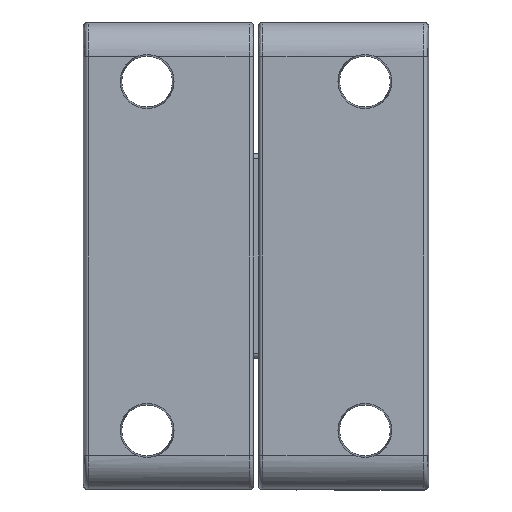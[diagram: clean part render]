
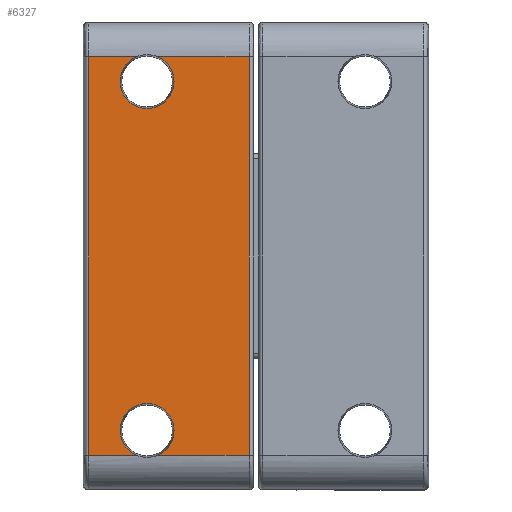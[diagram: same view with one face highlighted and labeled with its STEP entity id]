
A CAD part, left-side view. The second image highlights one B-rep face of the part: STEP entity #6327.
In plain terms, the highlighted planar face has unit normal (-1, 0, 0).
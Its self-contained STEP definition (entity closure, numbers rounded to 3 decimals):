
#20 = CARTESIAN_POINT ( 'NONE',  ( -95.431, 21.302, -106.67 ) ) ;
#51 = DIRECTION ( 'NONE',  ( 1., 0., 0. ) ) ;
#307 = CARTESIAN_POINT ( 'NONE',  ( -95.431, 10.021, -55.746 ) ) ;
#437 = DIRECTION ( 'NONE',  ( 0., 1., 0. ) ) ;
#480 = VERTEX_POINT ( 'NONE', #6023 ) ;
#532 = ORIENTED_EDGE ( 'NONE', *, *, #6943, .T. ) ;
#610 = EDGE_CURVE ( 'NONE', #2013, #2506, #3266, .T. ) ;
#831 = DIRECTION ( 'NONE',  ( -1., 0., 0. ) ) ;
#926 = VERTEX_POINT ( 'NONE', #2002 ) ;
#968 = DIRECTION ( 'NONE',  ( 0., -1., 0. ) ) ;
#1058 = DIRECTION ( 'NONE',  ( 0., 1., 0. ) ) ;
#1101 = VECTOR ( 'NONE', #4502, 1000. ) ;
#1115 = DIRECTION ( 'NONE',  ( 0., -1., 0. ) ) ;
#1288 = VERTEX_POINT ( 'NONE', #5794 ) ;
#1295 = EDGE_CURVE ( 'NONE', #926, #2013, #2900, .T. ) ;
#1339 = ORIENTED_EDGE ( 'NONE', *, *, #4547, .T. ) ;
#1377 = DIRECTION ( 'NONE',  ( 0., -1., 0. ) ) ;
#1397 = VECTOR ( 'NONE', #437, 1000. ) ;
#1593 = ORIENTED_EDGE ( 'NONE', *, *, #6188, .T. ) ;
#1723 = VECTOR ( 'NONE', #6859, 1000. ) ;
#1749 = CARTESIAN_POINT ( 'NONE',  ( -95.431, 25.689, -103.746 ) ) ;
#1836 = DIRECTION ( 'NONE',  ( 1., 0., 0. ) ) ;
#1904 = AXIS2_PLACEMENT_3D ( 'NONE', #5586, #1836, #1115 ) ;
#1950 = CARTESIAN_POINT ( 'NONE',  ( -95.431, 29.384, -59.821 ) ) ;
#2002 = CARTESIAN_POINT ( 'NONE',  ( -95.431, 10.521, -106.67 ) ) ;
#2013 = VERTEX_POINT ( 'NONE', #4315 ) ;
#2091 = DIRECTION ( 'NONE',  ( 0., -1., 0. ) ) ;
#2493 = VECTOR ( 'NONE', #6466, 1000. ) ;
#2506 = VERTEX_POINT ( 'NONE', #6152 ) ;
#2900 = LINE ( 'NONE', #4342, #2493 ) ;
#2980 = ORIENTED_EDGE ( 'NONE', *, *, #4927, .T. ) ;
#3087 = PLANE ( 'NONE',  #4046 ) ;
#3266 = LINE ( 'NONE', #3982, #1397 ) ;
#3309 = CIRCLE ( 'NONE', #6698, 3.168 ) ;
#3495 = CIRCLE ( 'NONE', #4253, 3.168 ) ;
#3710 = EDGE_CURVE ( 'NONE', #3940, #1288, #5966, .T. ) ;
#3799 = ORIENTED_EDGE ( 'NONE', *, *, #9340, .T. ) ;
#3893 = VERTEX_POINT ( 'NONE', #7139 ) ;
#3927 = CIRCLE ( 'NONE', #6088, 3.168 ) ;
#3940 = VERTEX_POINT ( 'NONE', #7044 ) ;
#3982 = CARTESIAN_POINT ( 'NONE',  ( -95.431, 10.021, -59.821 ) ) ;
#4046 = AXIS2_PLACEMENT_3D ( 'NONE', #307, #831, #5207 ) ;
#4125 = EDGE_CURVE ( 'NONE', #5976, #3940, #6812, .T. ) ;
#4253 = AXIS2_PLACEMENT_3D ( 'NONE', #6625, #7287, #8738 ) ;
#4315 = CARTESIAN_POINT ( 'NONE',  ( -95.431, 10.521, -59.821 ) ) ;
#4342 = CARTESIAN_POINT ( 'NONE',  ( -95.431, 10.521, -55.746 ) ) ;
#4502 = DIRECTION ( 'NONE',  ( 0., -1., 0. ) ) ;
#4547 = EDGE_CURVE ( 'NONE', #6098, #7416, #6344, .T. ) ;
#4586 = EDGE_CURVE ( 'NONE', #2506, #7467, #6050, .T. ) ;
#4927 = EDGE_CURVE ( 'NONE', #480, #5976, #6076, .T. ) ;
#4957 = VECTOR ( 'NONE', #1058, 1000. ) ;
#4963 = ORIENTED_EDGE ( 'NONE', *, *, #4125, .T. ) ;
#5009 = VECTOR ( 'NONE', #968, 1000. ) ;
#5095 = EDGE_LOOP ( 'NONE', ( #6563, #532, #1593, #1339, #3799, #8004, #9343, #8816, #9331, #8425, #2980, #4963 ) ) ;
#5181 = DIRECTION ( 'NONE',  ( 0., -1., 0. ) ) ;
#5207 = DIRECTION ( 'NONE',  ( 0., 0., 1. ) ) ;
#5229 = CARTESIAN_POINT ( 'NONE',  ( -95.431, 10.021, -106.67 ) ) ;
#5271 = AXIS2_PLACEMENT_3D ( 'NONE', #7816, #9440, #7918 ) ;
#5299 = LINE ( 'NONE', #8200, #5009 ) ;
#5586 = CARTESIAN_POINT ( 'NONE',  ( -95.431, 22.521, -103.746 ) ) ;
#5758 = CARTESIAN_POINT ( 'NONE',  ( -95.431, 22.521, -62.746 ) ) ;
#5794 = CARTESIAN_POINT ( 'NONE',  ( -95.431, 23.739, -106.67 ) ) ;
#5825 = CARTESIAN_POINT ( 'NONE',  ( -95.431, 19.352, -62.746 ) ) ;
#5966 = LINE ( 'NONE', #5229, #1101 ) ;
#5976 = VERTEX_POINT ( 'NONE', #1950 ) ;
#6023 = CARTESIAN_POINT ( 'NONE',  ( -95.431, 23.739, -59.821 ) ) ;
#6050 = CIRCLE ( 'NONE', #5271, 3.168 ) ;
#6076 = LINE ( 'NONE', #9143, #4957 ) ;
#6088 = AXIS2_PLACEMENT_3D ( 'NONE', #5758, #7348, #1377 ) ;
#6098 = VERTEX_POINT ( 'NONE', #8392 ) ;
#6152 = CARTESIAN_POINT ( 'NONE',  ( -95.431, 21.302, -59.821 ) ) ;
#6188 = EDGE_CURVE ( 'NONE', #7047, #6098, #8219, .T. ) ;
#6327 = ADVANCED_FACE ( 'NONE', ( #8725 ), #3087, .T. ) ;
#6344 = CIRCLE ( 'NONE', #8811, 3.168 ) ;
#6466 = DIRECTION ( 'NONE',  ( 0., 0., 1. ) ) ;
#6563 = ORIENTED_EDGE ( 'NONE', *, *, #3710, .T. ) ;
#6625 = CARTESIAN_POINT ( 'NONE',  ( -95.431, 22.521, -62.746 ) ) ;
#6633 = CARTESIAN_POINT ( 'NONE',  ( -95.431, 22.521, -103.746 ) ) ;
#6698 = AXIS2_PLACEMENT_3D ( 'NONE', #6633, #51, #5181 ) ;
#6812 = LINE ( 'NONE', #7572, #1723 ) ;
#6859 = DIRECTION ( 'NONE',  ( 0., 0., -1. ) ) ;
#6943 = EDGE_CURVE ( 'NONE', #1288, #7047, #3309, .T. ) ;
#7044 = CARTESIAN_POINT ( 'NONE',  ( -95.431, 29.384, -106.67 ) ) ;
#7047 = VERTEX_POINT ( 'NONE', #1749 ) ;
#7139 = CARTESIAN_POINT ( 'NONE',  ( -95.431, 25.689, -62.746 ) ) ;
#7287 = DIRECTION ( 'NONE',  ( 1., 0., 0. ) ) ;
#7348 = DIRECTION ( 'NONE',  ( 1., 0., 0. ) ) ;
#7416 = VERTEX_POINT ( 'NONE', #20 ) ;
#7467 = VERTEX_POINT ( 'NONE', #5825 ) ;
#7572 = CARTESIAN_POINT ( 'NONE',  ( -95.431, 29.384, -55.746 ) ) ;
#7648 = EDGE_CURVE ( 'NONE', #3893, #480, #3927, .T. ) ;
#7816 = CARTESIAN_POINT ( 'NONE',  ( -95.431, 22.521, -62.746 ) ) ;
#7918 = DIRECTION ( 'NONE',  ( 0., -1., 0. ) ) ;
#8004 = ORIENTED_EDGE ( 'NONE', *, *, #1295, .T. ) ;
#8200 = CARTESIAN_POINT ( 'NONE',  ( -95.431, 10.021, -106.67 ) ) ;
#8219 = CIRCLE ( 'NONE', #1904, 3.168 ) ;
#8392 = CARTESIAN_POINT ( 'NONE',  ( -95.431, 19.352, -103.746 ) ) ;
#8425 = ORIENTED_EDGE ( 'NONE', *, *, #7648, .T. ) ;
#8725 = FACE_OUTER_BOUND ( 'NONE', #5095, .T. ) ;
#8738 = DIRECTION ( 'NONE',  ( 0., -1., 0. ) ) ;
#8811 = AXIS2_PLACEMENT_3D ( 'NONE', #9338, #9250, #2091 ) ;
#8816 = ORIENTED_EDGE ( 'NONE', *, *, #4586, .T. ) ;
#8823 = EDGE_CURVE ( 'NONE', #7467, #3893, #3495, .T. ) ;
#9143 = CARTESIAN_POINT ( 'NONE',  ( -95.431, 10.021, -59.821 ) ) ;
#9250 = DIRECTION ( 'NONE',  ( 1., 0., 0. ) ) ;
#9331 = ORIENTED_EDGE ( 'NONE', *, *, #8823, .T. ) ;
#9338 = CARTESIAN_POINT ( 'NONE',  ( -95.431, 22.521, -103.746 ) ) ;
#9340 = EDGE_CURVE ( 'NONE', #7416, #926, #5299, .T. ) ;
#9343 = ORIENTED_EDGE ( 'NONE', *, *, #610, .T. ) ;
#9440 = DIRECTION ( 'NONE',  ( 1., 0., 0. ) ) ;
